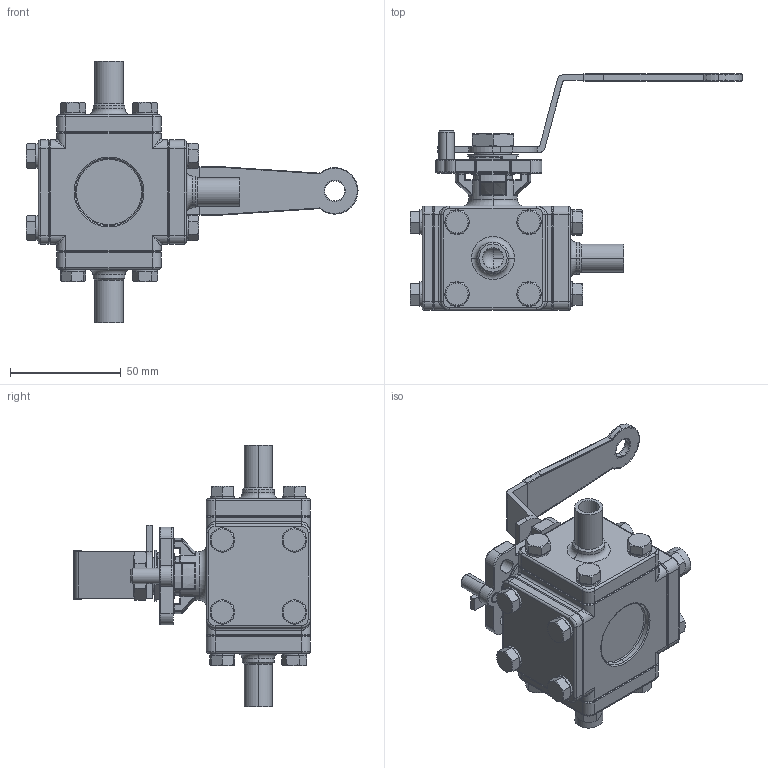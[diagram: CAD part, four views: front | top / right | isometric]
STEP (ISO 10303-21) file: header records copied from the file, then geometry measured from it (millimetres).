
FILE_DESCRIPTION (( 'STEP AP203' ), '1' );
FILE_NAME ('E93WWW-6.5.STEP', '2019-07-02T02:19:36', ( '' ), ( '' ), 'SwSTEP 2.0', 'SolidWorks 2014', '' );
FILE_SCHEMA (( 'CONFIG_CONTROL_DESIGN' ));
Length unit declared in the file: millimetre
Products named in the file (24): 18.THINNER NUT0.5-.0.75; 15.SPRING WASHER0.5-0.75; 6.THRUST WASHER0.5; 14.HANDLE0.5-0.75; 11.STOP PIN0.5-1.0; 7.O-RING0.5-1.0; 2.3WAY-CAP-W-0.5; E93WWW-6.5; 22.SEAT-L-0.5; 17.LOCKING TAB0.5-0.75; 20.SEAT BACK0.5; 19.3WAY-CAP0.5; 1.3WAY-BODY0.5; 5.GASKET0.5; 8.STEM PACKING0.5; 13.STEM0.5; 4.SEAT1-0.5; 22.SEAT-R-0.5; 3.3WAY-BALL-0.5-L; 21.PLAIN WASHER0.5-0.75; 16.BOLT0.5; 9.RING0.5-0.75; 10.BEVEL WASHER0.5-0.75; 12.3WAY-NUT0.5-.0.75
Assembly tree (58 placements, depth 2):
  E93WWW-6.5
    1.3WAY-BODY0.5
    3.3WAY-BALL-0.5-L
    13.STEM0.5
    6.THRUST WASHER0.5
    7.O-RING0.5-1.0
    9.RING0.5-0.75
    8.STEM PACKING0.5
    10.BEVEL WASHER0.5-0.75  x2
    17.LOCKING TAB0.5-0.75
    18.THINNER NUT0.5-.0.75
    21.PLAIN WASHER0.5-0.75
    20.SEAT BACK0.5
    22.SEAT-L-0.5
    22.SEAT-R-0.5
    4.SEAT1-0.5  x2
    5.GASKET0.5  x2
    19.3WAY-CAP0.5
    16.BOLT0.5  x16
    15.SPRING WASHER0.5-0.75  x16
    14.HANDLE0.5-0.75
    11.STOP PIN0.5-1.0
    12.3WAY-NUT0.5-.0.75
    2.3WAY-CAP-W-0.5  x3
Bounding box: 150 x 106.87 x 118 mm (x, y, z)
Volume: 226309.6 mm3; surface area: 108998.5 mm2
Topology: 59 solids, 59 shells, 1482 faces, 3334 edges, 1964 vertices
Faces by surface type: cylinder 561, plane 397, cone 226, torus 193, sphere 56, bspline 49
Entity records: 33843 total; most frequent: CARTESIAN_POINT 7925, DIRECTION 5163, ORIENTED_EDGE 4426, EDGE_CURVE 2213, AXIS2_PLACEMENT_3D 2186, VERTEX_POINT 1310, CIRCLE 1199, EDGE_LOOP 1083
